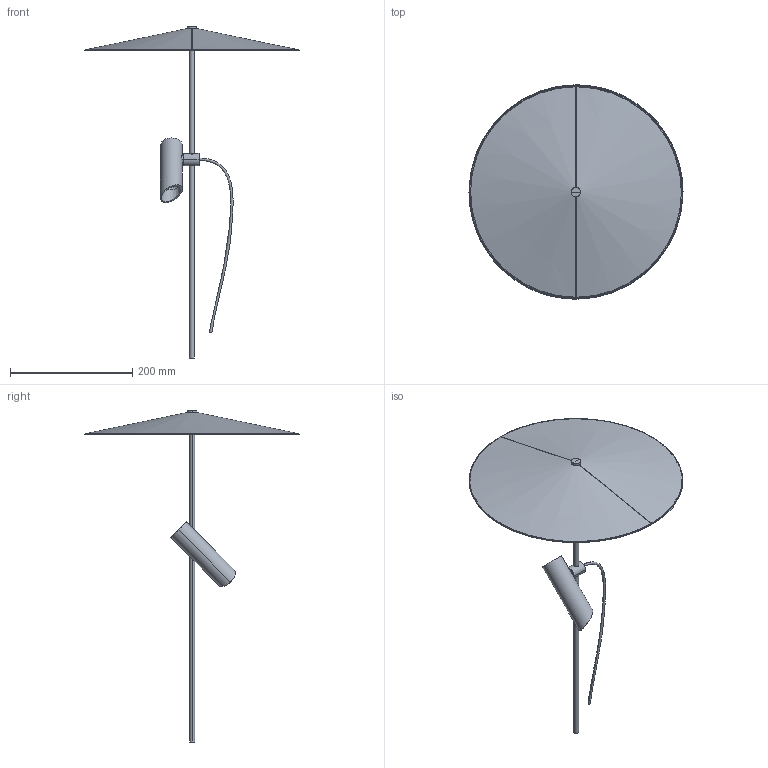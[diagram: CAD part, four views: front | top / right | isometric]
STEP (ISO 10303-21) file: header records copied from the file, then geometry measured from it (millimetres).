
FILE_DESCRIPTION(/* description */ (''),/* implementation_level */ '2;1');
FILE_NAME(/* name */ 'clap_spike_630_p.step',/* time_stamp */ '2025-02-26T11:24:20+01:00',/* author */ ('RenataManzini'),/* organization */ (''),/* preprocessor_version */ 'ST-DEVELOPER v20',/* originating_system */ 'AutoCAD Mechanical',/* authorisation */ '');
FILE_SCHEMA (('AUTOMOTIVE_DESIGN { 1 0 10303 214 3 1 1 }'));
Length unit declared in the file: millimetre
Products named in the file (4): Product; CLAP_ lamp - CLAP Proyector-489792-_3D_; CLAP_ pantalla_l - CLAP Accesorio pantalla L negro-491435-_3D_; CLAP_ pantalla_s - CLAP Accesorio pantalla S negro-491434-_3D_
Assembly tree (4 placements, depth 2):
  Product
    CLAP_ pantalla_s - CLAP Accesorio pantalla S negro-491434-_3D_  x2
    CLAP_ lamp - CLAP Proyector-489792-_3D_
    CLAP_ pantalla_l - CLAP Accesorio pantalla L negro-491435-_3D_
Bounding box: 350.15 x 350.8 x 543 mm (x, y, z)
Volume: 416286.9 mm3; surface area: 438807.4 mm2
Topology: 8 solids, 8 shells, 79 faces, 142 edges, 76 vertices
Faces by surface type: plane 39, cylinder 22, cone 12, torus 4, bspline 2
Entity records: 2984 total; most frequent: CARTESIAN_POINT 1652, DIRECTION 290, ORIENTED_EDGE 228, AXIS2_PLACEMENT_3D 121, EDGE_CURVE 114, EDGE_LOOP 68, FACE_OUTER_BOUND 65, ADVANCED_FACE 65
